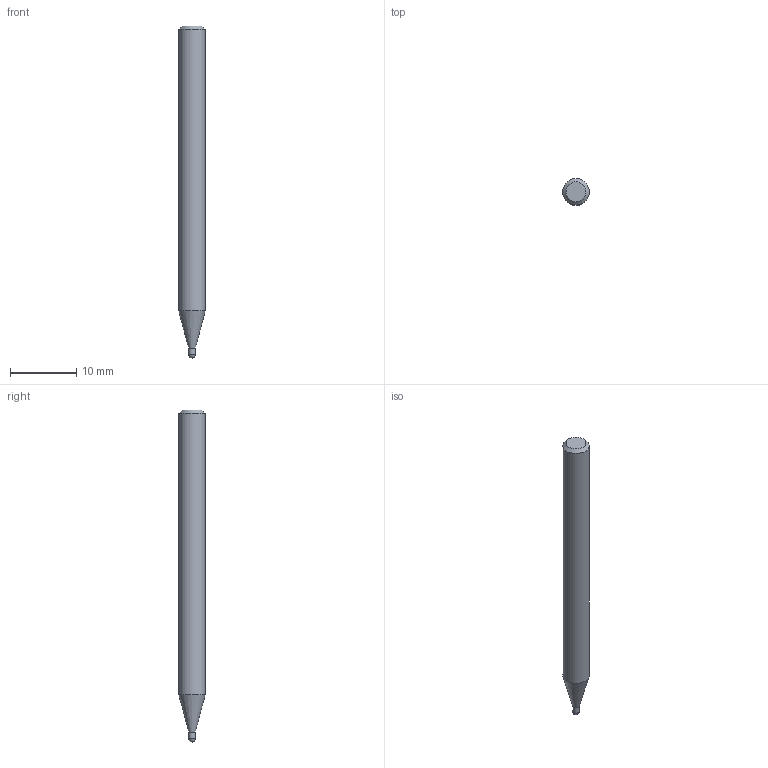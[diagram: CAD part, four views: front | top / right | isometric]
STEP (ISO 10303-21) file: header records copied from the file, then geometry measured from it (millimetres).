
FILE_DESCRIPTION((''),'2;1');
FILE_NAME('C:\Users\nsx150\AppData\Local\Temp\Mastercam 2021\J4S5TCIUH2\TEMP.step','2022-01-25T17:53:47',(''),(''),'STEP Write','Mastercam 2021 ... CNC Software, Inc.','');
FILE_SCHEMA(('AUTOMOTIVE_DESIGN'));
Length unit declared in the file: millimetre
Products named in the file (1): None
Bounding box: 4 x 4 x 50 mm (x, y, z)
Volume: 569.5 mm3; surface area: 599.5 mm2
Topology: 2 solids, 2 shells, 8 faces, 12 edges, 7 vertices
Faces by surface type: plane 3, cylinder 2, cone 2, sphere 1
Full cylindrical faces by diameter (mm): 1 x1, 4 x1
Entity records: 190 total; most frequent: DIRECTION 32, CARTESIAN_POINT 22, AXIS2_PLACEMENT_3D 16, ORIENTED_EDGE 12, EDGE_LOOP 12, STYLED_ITEM 11, ADVANCED_FACE 8, VERTEX_POINT 6
